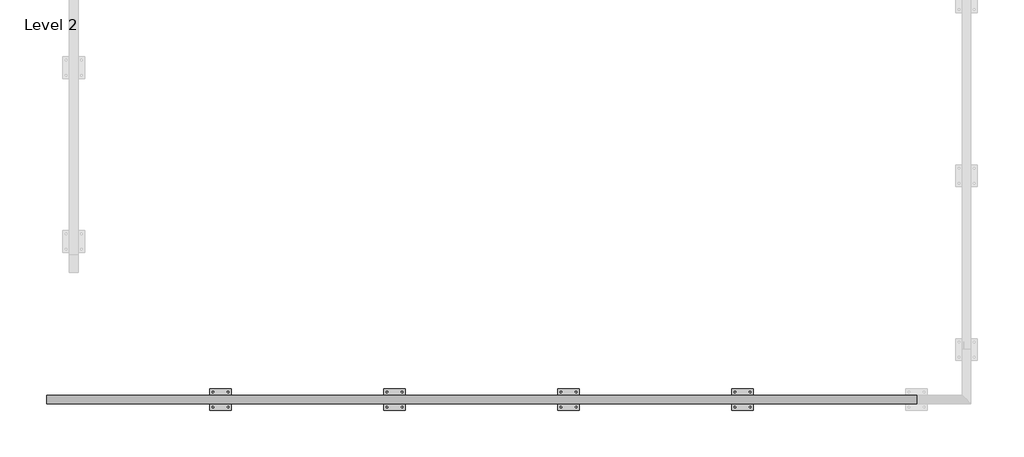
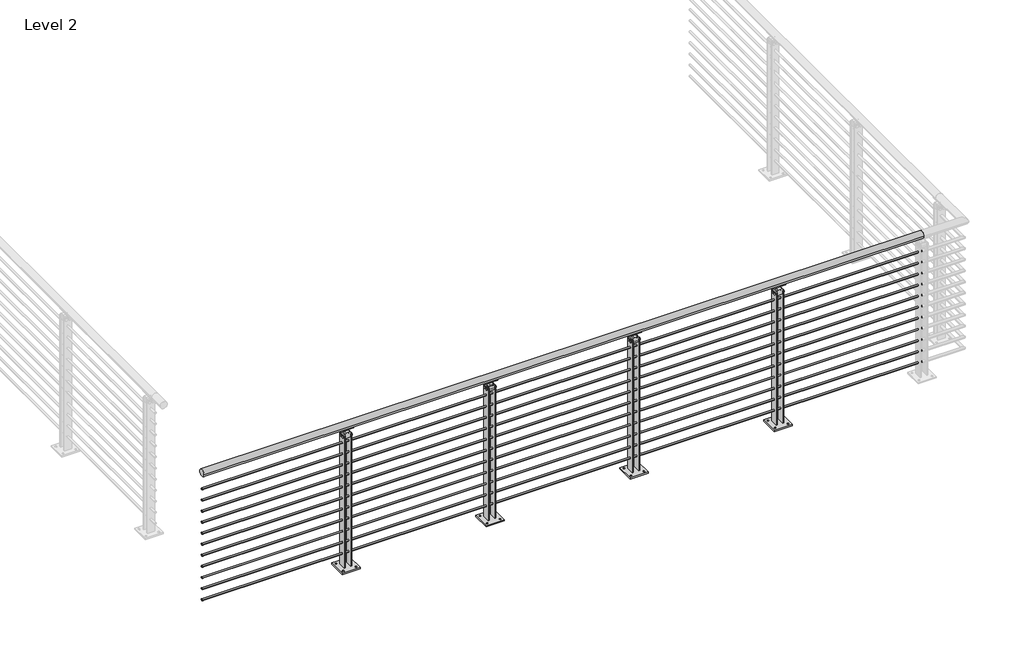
# One storey, part 10 of 31: 1 railing.
"""IFC4 building model written with IfcOpenShell, lengths in millimetres."""

import ifcopenshell
import ifcopenshell.guid

model = None  # the IFC model being written
_history = None  # IfcOwnerHistory: only IFC2X3 demands one
_inside = {}  # id of a spatial element -> (the spatial element, [elements in it])
_under = {}  # id of a project, library or spatial element -> (it, [spatial elements below it])
_declared = {}  # id of a project -> (the project, [libraries it declares])
_typed = {}  # id of a type object -> (the type object, [elements of that type])
_made_of = {}  # id of a material, layer set ... -> (it, [elements and type objects made of it])


def new_model(schema):
    """Start an empty IFC model of exactly this schema.

    Asked for "IFC4X3", IfcOpenShell would pick the latest addendum, in which some entities
    have other attributes; the version numbers below select the first issue.
    IFC2X3 requires an IfcOwnerHistory on every rooted entity: one is made here for all.
    """
    global model, _history
    if schema == "IFC4X3":
        model = ifcopenshell.file(schema_version=(4, 3, 0, 0))
    else:
        model = ifcopenshell.file(schema=schema)
    _inside.clear()
    _under.clear()
    _declared.clear()
    _typed.clear()
    _made_of.clear()
    _history = None
    if model.schema == "IFC2X3":
        org = make("IfcOrganization", Name="unknown")
        user = make(
            "IfcPersonAndOrganization",
            ThePerson=make("IfcPerson", FamilyName="unknown"),
            TheOrganization=org,
        )
        app = make(
            "IfcApplication",
            ApplicationDeveloper=org,
            Version="unknown",
            ApplicationFullName="unknown",
            ApplicationIdentifier="unknown",
        )
        _history = make(
            "IfcOwnerHistory",
            OwningUser=user,
            OwningApplication=app,
            ChangeAction="ADDED",
            CreationDate=0,
        )
    return model


def make(cls, **values):
    """One entity of the class cls with the attributes given. An attribute that is None is left unset."""
    return model.create_entity(
        cls, **{name: value for name, value in values.items() if value is not None}
    )


def rooted(cls, **values):
    """An entity with a GlobalId (a new one), such as an element, a storey or a relation."""
    return make(cls, GlobalId=ifcopenshell.guid.new(), OwnerHistory=_history, **values)


def si_unit(unit_type, name, prefix=None):
    """IfcSIUnit, for example si_unit("LENGTHUNIT", "METRE", prefix="MILLI")."""
    return make("IfcSIUnit", UnitType=unit_type, Prefix=prefix, Name=name)


def assignment(units):
    """IfcUnitAssignment: the units of a project."""
    return None if units is None else make("IfcUnitAssignment", Units=units)


def point(xyz):
    """IfcCartesianPoint."""
    return None if xyz is None else make("IfcCartesianPoint", Coordinates=xyz)


def direction(xyz):
    """IfcDirection."""
    return None if xyz is None else make("IfcDirection", DirectionRatios=xyz)


def frame(location, z_axis=None, x_axis=None):
    """IfcAxis2Placement3D, a coordinate frame: its origin and axes. An axis left out is left unset."""
    return make(
        "IfcAxis2Placement3D",
        Location=point(location),
        Axis=direction(z_axis),
        RefDirection=direction(x_axis),
    )


def frame_2d(location, x_axis=None):
    """IfcAxis2Placement2D, a coordinate frame in the plane: its origin and x axis."""
    return make(
        "IfcAxis2Placement2D", Location=point(location), RefDirection=direction(x_axis)
    )


def origin():
    """The frame at (0, 0, 0) with its axes left unset."""
    return frame((0.0, 0.0, 0.0))


def place(relative_to, where):
    """IfcLocalPlacement: puts the frame where relative to a parent placement (None: the world)."""
    return make(
        "IfcLocalPlacement", PlacementRelTo=relative_to, RelativePlacement=where
    )


def context(
    kind, dimensions, precision=None, world=None, true_north=None, identifier=None
):
    """IfcGeometricRepresentationContext, for example the 3D "Model" context."""
    return make(
        "IfcGeometricRepresentationContext",
        ContextIdentifier=identifier,
        ContextType=kind,
        CoordinateSpaceDimension=dimensions,
        Precision=precision,
        WorldCoordinateSystem=world,
        TrueNorth=true_north,
    )


def project(units=None, contexts=None):
    """IfcProject with its units and contexts."""
    return rooted(
        "IfcProject",
        Name="project",
        RepresentationContexts=contexts,
        UnitsInContext=assignment(units),
    )


def spatial(cls, under=None, at=None, **own):
    """A site, building, storey or space (cls), placed at a placement, below another one or the project."""
    s = rooted(cls, ObjectPlacement=at, **own)
    if under is not None:
        _under.setdefault(under.id(), (under, []))[1].append(s)
    return s


def polyline(points):
    """IfcPolyline through the points."""
    return make("IfcPolyline", Points=[point(p) for p in points])


def circle_curve(where, radius):
    """IfcCircle in the frame where."""
    return make("IfcCircle", Position=where, Radius=radius)


def trimmed(basis, trim1, trim2, sense, master):
    """IfcTrimmedCurve: the piece of a basis curve between two trims."""
    return make(
        "IfcTrimmedCurve",
        BasisCurve=basis,
        Trim1=trim1,
        Trim2=trim2,
        SenseAgreement=sense,
        MasterRepresentation=master,
    )


def segment(curve, same_sense, transition):
    """IfcCompositeCurveSegment."""
    return make(
        "IfcCompositeCurveSegment",
        Transition=transition,
        SameSense=same_sense,
        ParentCurve=curve,
    )


def composite_curve(segments, self_intersect=None):
    """IfcCompositeCurve: segments joined end to end."""
    return make("IfcCompositeCurve", Segments=segments, SelfIntersect=self_intersect)


def outline(outer, holes=None, kind="AREA"):
    """IfcArbitraryClosedProfileDef: a profile drawn as a closed curve; with holes, ...WithVoids."""
    if holes is None:
        return make("IfcArbitraryClosedProfileDef", ProfileType=kind, OuterCurve=outer)
    return make(
        "IfcArbitraryProfileDefWithVoids",
        ProfileType=kind,
        OuterCurve=outer,
        InnerCurves=holes,
    )


def extrude(swept, where, along, depth):
    """IfcExtrudedAreaSolid: the profile swept, set in the frame where, extruded along a direction by depth."""
    return make(
        "IfcExtrudedAreaSolid",
        SweptArea=swept,
        Position=where,
        ExtrudedDirection=direction(along),
        Depth=depth,
    )


def shape(context_of_items, identifier, shape_type, items):
    """IfcShapeRepresentation: the items that make up one representation, for example the "Body"."""
    return make(
        "IfcShapeRepresentation",
        ContextOfItems=context_of_items,
        RepresentationIdentifier=identifier,
        RepresentationType=shape_type,
        Items=items,
    )


def made_of(thing, what):
    """Note that an element or type object is made of a material, layer set ...; save() writes the relation."""
    if what is not None:
        _made_of.setdefault(what.id(), (what, []))[1].append(thing)
    return thing


def element(
    cls,
    number,
    at=None,
    inside=None,
    cuts=None,
    type_object=None,
    material=None,
    context=None,
    identifier="Body",
    shape_type=None,
    held_by="IfcProductDefinitionShape",
    body=None,
    shapes=None,
    **own,
):
    """One element of the class cls, such as IfcWall. Its Tag is "e" and its number.

    at: its placement. inside: the storey or other place that contains it. cuts: it is an
    opening in that element (IfcRelVoidsElement). A single representation is given by context,
    identifier, shape_type and body (its items); several are given by shapes. held_by: the class
    of the entity that holds the representations. save() writes the other relations.
    """
    e = rooted(cls, Tag="e%d" % number, ObjectPlacement=at, **own)
    if body is not None:
        shapes = [shape(context, identifier, shape_type, body)]
    if shapes is not None:
        e.Representation = make(held_by, Representations=shapes)
    if inside is not None:
        _inside.setdefault(inside.id(), (inside, []))[1].append(e)
    if cuts is not None:
        rooted(
            "IfcRelVoidsElement", RelatingBuildingElement=cuts, RelatedOpeningElement=e
        )
    if type_object is not None:
        _typed.setdefault(type_object.id(), (type_object, []))[1].append(e)
    return made_of(e, material)


def aggregate(whole, parts):
    """IfcRelAggregates: a whole, such as a stair, and the parts it consists of."""
    return rooted("IfcRelAggregates", RelatingObject=whole, RelatedObjects=parts)


def save(model, path):
    """Write the relations noted so far, then the file.

    IfcRelAggregates (storeys below a building ...), IfcRelContainedInSpatialStructure (elements
    in a storey), IfcRelDefinesByType, IfcRelAssociatesMaterial and IfcRelDeclares: one each for
    every whole, place, type object, material and project.
    """
    for whole, parts in _under.values():
        aggregate(whole, parts)
    for where, things in _inside.values():
        rooted(
            "IfcRelContainedInSpatialStructure",
            RelatedElements=things,
            RelatingStructure=where,
        )
    for kind, things in _typed.values():
        rooted("IfcRelDefinesByType", RelatedObjects=things, RelatingType=kind)
    for what, things in _made_of.values():
        rooted("IfcRelAssociatesMaterial", RelatedObjects=things, RelatingMaterial=what)
    for by, libraries in _declared.values():
        rooted("IfcRelDeclares", RelatingContext=by, RelatedDefinitions=libraries)
    model.write(path)


def plane_surface(at):
    """IfcPlane: the flat surface through the origin of the frame at, square to its z axis."""
    return make("IfcPlane", Position=at)


def cylinder_surface(at, radius):
    """IfcCylindricalSurface: all points at the distance radius from the z axis of the frame at."""
    return make("IfcCylindricalSurface", Position=at, Radius=radius)


def revolved_surface(curve, axis_point, axis_direction):
    """IfcSurfaceOfRevolution: the curve turned about the line through axis_point along axis_direction."""
    return make(
        "IfcSurfaceOfRevolution",
        SweptCurve=make("IfcArbitraryOpenProfileDef", ProfileType="CURVE", Curve=curve),
        AxisPosition=make("IfcAxis1Placement", Location=point(axis_point), Axis=direction(axis_direction)),
    )


def advanced_brep(points, edges, surfaces, faces):
    """IfcAdvancedBrep: a solid bounded by faces that lie on surfaces and meet in shared edges.

    An edge is (start, end): straight between two places in points (the first is 0);
    or (start, end, curve); or (start, end, curve, False) where it runs against its curve.
    A face is (place in surfaces, loops), or (place, loops, False) where it looks against
    its surface's normal. A loop lists edges by number (the first is 1), with a minus sign
    where the edge is run from its end to its start. The first loop is the outer one.
    """
    corners = [point(p) for p in points]
    vertices = [make("IfcVertexPoint", VertexGeometry=c) for c in corners]
    made = []
    for start, end, *more in edges:
        made.append(
            make(
                "IfcEdgeCurve",
                EdgeStart=vertices[start],
                EdgeEnd=vertices[end],
                EdgeGeometry=more[0] if more else make("IfcPolyline", Points=[corners[start], corners[end]]),
                SameSense=more[1] if len(more) > 1 else True,
            )
        )
    hull = []
    for where, loops, *sense in faces:
        bounds = []
        for j, loop in enumerate(loops):
            ring = [make("IfcOrientedEdge", EdgeElement=made[abs(k) - 1], Orientation=k > 0) for k in loop]
            bounds.append(
                make(
                    "IfcFaceOuterBound" if j == 0 else "IfcFaceBound",
                    Bound=make("IfcEdgeLoop", EdgeList=ring),
                    Orientation=True,
                )
            )
        hull.append(make("IfcAdvancedFace", Bounds=bounds, FaceSurface=surfaces[where], SameSense=sense[0] if sense else True))
    return make("IfcAdvancedBrep", Outer=make("IfcClosedShell", CfsFaces=hull))


model = new_model("IFC4")

# Units and contexts
model_context = context("Model", 3, world=origin())
ifc_project = project(units=[si_unit("LENGTHUNIT", "METRE", prefix="MILLI")], contexts=[model_context])

# Site, building, storey
site = spatial("IfcSite", under=ifc_project)
building = spatial("IfcBuilding", under=site)
storey = spatial("IfcBuildingStorey", under=building, Name="Level 2", Elevation=3048.0)

# Railing
placement = place(None, origin())
element("IfcRailing", 1, ObjectType="VIVA-BLADE-Multiline-Floor Mount-Straight", at=placement, inside=storey, context=model_context, shape_type="SolidModel", body=[
    extrude(outline(composite_curve([segment(trimmed(circle_curve(frame_2d((-69935.5426165, 4102.1)), 25.4), [point((-69960.9426165, 4102.1))], [point((-69910.1426165, 4102.1))], False, "CARTESIAN"), True, "CONTINUOUS"), segment(trimmed(circle_curve(frame_2d((-69935.5426165, 4102.1)), 25.4), [point((-69910.1426165, 4102.1))], [point((-69960.9426165, 4102.1))], False, "CARTESIAN"), True, "CONTINUOUS")], self_intersect=False)), frame((15443.0072927, 0.0, 0.0), z_axis=(1.0, 0.0, 0.0), x_axis=(0.0, 1.0, 0.0)), (0.0, 0.0, 1.0), 5080.0),
    extrude(outline(composite_curve([segment(trimmed(circle_curve(frame_2d((-69935.5426165, 3981.45)), 6.35), [point((-69929.1926165, 3981.45))], [point((-69941.8926165, 3981.45))], False, "CARTESIAN"), True, "CONTINUOUS"), segment(trimmed(circle_curve(frame_2d((-69935.5426165, 3981.45)), 6.35), [point((-69941.8926165, 3981.45))], [point((-69929.1926165, 3981.45))], False, "CARTESIAN"), True, "CONTINUOUS")], self_intersect=False)), frame((15443.0072927, 0.0, 0.0), z_axis=(1.0, 0.0, 0.0), x_axis=(0.0, 1.0, 0.0)), (0.0, 0.0, 1.0), 5080.0),
    extrude(outline(composite_curve([segment(trimmed(circle_curve(frame_2d((-69935.5426165, 3898.9)), 6.35), [point((-69929.1926165, 3898.9))], [point((-69941.8926165, 3898.9))], False, "CARTESIAN"), True, "CONTINUOUS"), segment(trimmed(circle_curve(frame_2d((-69935.5426165, 3898.9)), 6.35), [point((-69941.8926165, 3898.9))], [point((-69929.1926165, 3898.9))], False, "CARTESIAN"), True, "CONTINUOUS")], self_intersect=False)), frame((15443.0072927, 0.0, 0.0), z_axis=(1.0, 0.0, 0.0), x_axis=(0.0, 1.0, 0.0)), (0.0, 0.0, 1.0), 5080.0),
    extrude(outline(composite_curve([segment(trimmed(circle_curve(frame_2d((-69935.5426165, 3816.35)), 6.35), [point((-69929.1926165, 3816.35))], [point((-69941.8926165, 3816.35))], False, "CARTESIAN"), True, "CONTINUOUS"), segment(trimmed(circle_curve(frame_2d((-69935.5426165, 3816.35)), 6.35), [point((-69941.8926165, 3816.35))], [point((-69929.1926165, 3816.35))], False, "CARTESIAN"), True, "CONTINUOUS")], self_intersect=False)), frame((15443.0072927, 0.0, 0.0), z_axis=(1.0, 0.0, 0.0), x_axis=(0.0, 1.0, 0.0)), (0.0, 0.0, 1.0), 5080.0),
    extrude(outline(composite_curve([segment(trimmed(circle_curve(frame_2d((-69935.5426165, 3733.8)), 6.35), [point((-69929.1926165, 3733.8))], [point((-69941.8926165, 3733.8))], False, "CARTESIAN"), True, "CONTINUOUS"), segment(trimmed(circle_curve(frame_2d((-69935.5426165, 3733.8)), 6.35), [point((-69941.8926165, 3733.8))], [point((-69929.1926165, 3733.8))], False, "CARTESIAN"), True, "CONTINUOUS")], self_intersect=False)), frame((15443.0072927, 0.0, 0.0), z_axis=(1.0, 0.0, 0.0), x_axis=(0.0, 1.0, 0.0)), (0.0, 0.0, 1.0), 5080.0),
    extrude(outline(composite_curve([segment(trimmed(circle_curve(frame_2d((-69935.5426165, 3651.25)), 6.35), [point((-69929.1926165, 3651.25))], [point((-69941.8926165, 3651.25))], False, "CARTESIAN"), True, "CONTINUOUS"), segment(trimmed(circle_curve(frame_2d((-69935.5426165, 3651.25)), 6.35), [point((-69941.8926165, 3651.25))], [point((-69929.1926165, 3651.25))], False, "CARTESIAN"), True, "CONTINUOUS")], self_intersect=False)), frame((15443.0072927, 0.0, 0.0), z_axis=(1.0, 0.0, 0.0), x_axis=(0.0, 1.0, 0.0)), (0.0, 0.0, 1.0), 5080.0),
    extrude(outline(composite_curve([segment(trimmed(circle_curve(frame_2d((-69935.5426165, 3568.7)), 6.35), [point((-69929.1926165, 3568.7))], [point((-69941.8926165, 3568.7))], False, "CARTESIAN"), True, "CONTINUOUS"), segment(trimmed(circle_curve(frame_2d((-69935.5426165, 3568.7)), 6.35), [point((-69941.8926165, 3568.7))], [point((-69929.1926165, 3568.7))], False, "CARTESIAN"), True, "CONTINUOUS")], self_intersect=False)), frame((15443.0072927, 0.0, 0.0), z_axis=(1.0, 0.0, 0.0), x_axis=(0.0, 1.0, 0.0)), (0.0, 0.0, 1.0), 5080.0),
    extrude(outline(composite_curve([segment(trimmed(circle_curve(frame_2d((-69935.5426165, 3486.15)), 6.35), [point((-69929.1926165, 3486.15))], [point((-69941.8926165, 3486.15))], False, "CARTESIAN"), True, "CONTINUOUS"), segment(trimmed(circle_curve(frame_2d((-69935.5426165, 3486.15)), 6.35), [point((-69941.8926165, 3486.15))], [point((-69929.1926165, 3486.15))], False, "CARTESIAN"), True, "CONTINUOUS")], self_intersect=False)), frame((15443.0072927, 0.0, 0.0), z_axis=(1.0, 0.0, 0.0), x_axis=(0.0, 1.0, 0.0)), (0.0, 0.0, 1.0), 5080.0),
    extrude(outline(composite_curve([segment(trimmed(circle_curve(frame_2d((-69935.5426165, 3403.6)), 6.35), [point((-69929.1926165, 3403.6))], [point((-69941.8926165, 3403.6))], False, "CARTESIAN"), True, "CONTINUOUS"), segment(trimmed(circle_curve(frame_2d((-69935.5426165, 3403.6)), 6.35), [point((-69941.8926165, 3403.6))], [point((-69929.1926165, 3403.6))], False, "CARTESIAN"), True, "CONTINUOUS")], self_intersect=False)), frame((15443.0072927, 0.0, 0.0), z_axis=(1.0, 0.0, 0.0), x_axis=(0.0, 1.0, 0.0)), (0.0, 0.0, 1.0), 5080.0),
    extrude(outline(composite_curve([segment(trimmed(circle_curve(frame_2d((-69935.5426165, 3321.05)), 6.35), [point((-69929.1926165, 3321.05))], [point((-69941.8926165, 3321.05))], False, "CARTESIAN"), True, "CONTINUOUS"), segment(trimmed(circle_curve(frame_2d((-69935.5426165, 3321.05)), 6.35), [point((-69941.8926165, 3321.05))], [point((-69929.1926165, 3321.05))], False, "CARTESIAN"), True, "CONTINUOUS")], self_intersect=False)), frame((15443.0072927, 0.0, 0.0), z_axis=(1.0, 0.0, 0.0), x_axis=(0.0, 1.0, 0.0)), (0.0, 0.0, 1.0), 5080.0),
    extrude(outline(composite_curve([segment(trimmed(circle_curve(frame_2d((-69935.5426165, 3238.5)), 6.35), [point((-69929.1926165, 3238.5))], [point((-69941.8926165, 3238.5))], False, "CARTESIAN"), True, "CONTINUOUS"), segment(trimmed(circle_curve(frame_2d((-69935.5426165, 3238.5)), 6.35), [point((-69941.8926165, 3238.5))], [point((-69929.1926165, 3238.5))], False, "CARTESIAN"), True, "CONTINUOUS")], self_intersect=False)), frame((15443.0072927, 0.0, 0.0), z_axis=(1.0, 0.0, 0.0), x_axis=(0.0, 1.0, 0.0)), (0.0, 0.0, 1.0), 5080.0),
    extrude(outline(composite_curve([segment(trimmed(circle_curve(frame_2d((-69935.5426165, 3155.95)), 6.35), [point((-69929.1926165, 3155.95))], [point((-69941.8926165, 3155.95))], False, "CARTESIAN"), True, "CONTINUOUS"), segment(trimmed(circle_curve(frame_2d((-69935.5426165, 3155.95)), 6.35), [point((-69941.8926165, 3155.95))], [point((-69929.1926165, 3155.95))], False, "CARTESIAN"), True, "CONTINUOUS")], self_intersect=False)), frame((15443.0072927, 0.0, 0.0), z_axis=(1.0, 0.0, 0.0), x_axis=(0.0, 1.0, 0.0)), (0.0, 0.0, 1.0), 5080.0),
    advanced_brep(
    [(19552.2446927, -69922.7824929, 4080.0967655), (19552.2446927, -69947.6545574, 4079.9535285), (19552.2446927, -69950.4634877, 4075.1267745), (19552.2446927, -69918.9465955, 4075.707533), (19461.7698927, -69922.7824929, 4080.0967655), (19461.7698927, -69918.9465955, 4075.707533), (19461.7698927, -69950.5772811, 4075.1893964), (19461.7698927, -69947.7415296, 4080.0018447)],
    [
        (0, 1, circle_curve(frame((19552.2446927, -69935.3462958, 4102.2115898), z_axis=(-1.0, 0.0, 0.0), x_axis=(0.0, 1.0, 0.0)), 25.4345159)),
        (1, 2, circle_curve(frame((19552.2446927, -69948.9861827, 4077.4993599), z_axis=(1.0, 0.0, 0.0), x_axis=(0.0, 1.0, 0.0)), 2.7949225)),
        (2, 3, circle_curve(frame((19552.2446927, -69935.2128327, 4102.9742164), z_axis=(1.0, 0.0, 0.0), x_axis=(0.0, 1.0, 0.0)), 31.75)),
        (3, 0, circle_curve(frame((19552.2446927, -69921.2349352, 4077.5784521), z_axis=(1.0, 0.0, 0.0), x_axis=(0.0, 1.0, 0.0)), 2.9558141)),
        (4, 5, circle_curve(frame((19461.7698927, -69921.2349352, 4077.5784521), z_axis=(-1.0, 0.0, 0.0), x_axis=(0.0, 1.0, 0.0)), 2.9558141)),
        (5, 6, circle_curve(frame((19461.7698927, -69935.2128327, 4102.9742164), z_axis=(-1.0, 0.0, 0.0), x_axis=(0.0, 1.0, 0.0)), 31.75)),
        (6, 7, circle_curve(frame((19461.7698927, -69948.9861827, 4077.4993599), z_axis=(-1.0, 0.0, 0.0), x_axis=(0.0, 1.0, 0.0)), 2.7949225)),
        (7, 4, circle_curve(frame((19461.7698927, -69935.3462958, 4102.2115898), z_axis=(1.0, 0.0, 0.0), x_axis=(0.0, 1.0, 0.0)), 25.4345159)),
        (0, 4),
        (7, 1),
        (6, 2),
        (5, 3),
    ],
    [
        plane_surface(frame((19552.2446927, -69909.9117799, 4102.2115898), z_axis=(1.0, 0.0, 0.0), x_axis=(0.0, 0.0, -1.0))),
        plane_surface(frame((19461.7698927, -69909.9117799, 4102.2115898), z_axis=(-1.0, 0.0, 0.0), x_axis=(0.0, 0.0, 1.0))),
        revolved_surface(polyline([(19461.7698927, -69909.91177990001, 4102.2115898), (19552.2446927, -69909.91177990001, 4102.2115898)]), (19461.7698927, -69935.3462958, 4102.2115898), (-1.0, 0.0, 0.0)),
        cylinder_surface(frame((19461.7698927, -69948.9861827, 4077.4993599), z_axis=(1.0, 0.0, 0.0), x_axis=(0.0, 1.0, 0.0)), 2.7949225),
        cylinder_surface(frame((19461.7698927, -69935.2128327, 4102.9742164), z_axis=(1.0, 0.0, 0.0), x_axis=(0.0, 1.0, 0.0)), 31.75),
        cylinder_surface(frame((19461.7698927, -69921.2349352, 4077.5784521), z_axis=(1.0, 0.0, 0.0), x_axis=(0.0, 1.0, 0.0)), 2.9558141),
    ],
    [
        (0, [[1, 2, 3, 4]]),
        (1, [[5, 6, 7, 8]]),
        (2, [[-1, 9, -8, 10]]),
        (3, [[-2, -10, -7, 11]]),
        (4, [[-3, -11, -6, 12]]),
        (5, [[-4, -12, -5, -9]]),
    ],
),
    extrude(outline(composite_curve([segment(trimmed(circle_curve(frame_2d((4062.4125, 19534.0752076)), 14.3679149), [point((4062.4125, 19519.7072927))], [point((4076.7804149, 19534.0752076))], True, "CARTESIAN"), True, "CONTINUOUS"), segment(polyline([(4076.7804149, 19534.0752076), (4076.7804149, 19479.9393778)]), True, "CONTINUOUS"), segment(trimmed(circle_curve(frame_2d((4062.4125, 19479.9393778)), 14.3679149), [point((4076.7804149, 19479.9393778))], [point((4062.4125, 19494.3072927))], True, "CARTESIAN"), True, "CONTINUOUS"), segment(polyline([(4062.4125, 19494.3072927), (4062.4125, 19519.7072927)]), True, "CONTINUOUS")], self_intersect=False)), frame((0.0, -69938.0826165, 0.0), z_axis=(0.0, 1.0, 0.0), x_axis=(0.0, 0.0, 1.0)), (0.0, 0.0, 1.0), 5.08),
    extrude(outline(polyline([(19570.4953558, -69999.0414225), (19443.4953558, -69999.0414225), (19443.4953558, -69872.0438106), (19570.4953558, -69872.0438106), (19570.4953558, -69999.0414225)]), holes=[composite_curve([segment(trimmed(circle_curve(frame_2d((19462.5453558, -69979.9914225)), 4.7625), [point((19462.5453558, -69984.7539225))], [point((19462.5453558, -69975.2289225))], True, "CARTESIAN"), True, "CONTINUOUS"), segment(trimmed(circle_curve(frame_2d((19462.5453558, -69979.9914225)), 4.7625), [point((19462.5453558, -69975.2289225))], [point((19462.5453558, -69984.7539225))], True, "CARTESIAN"), True, "CONTINUOUS")], self_intersect=False), composite_curve([segment(trimmed(circle_curve(frame_2d((19462.5453558, -69891.0938106)), 4.7625), [point((19462.5453558, -69895.8563106))], [point((19462.5453558, -69886.3313106))], True, "CARTESIAN"), True, "CONTINUOUS"), segment(trimmed(circle_curve(frame_2d((19462.5453558, -69891.0938106)), 4.7625), [point((19462.5453558, -69886.3313106))], [point((19462.5453558, -69895.8563106))], True, "CARTESIAN"), True, "CONTINUOUS")], self_intersect=False), composite_curve([segment(trimmed(circle_curve(frame_2d((19551.4453558, -69891.0938106)), 4.7625), [point((19551.4453558, -69895.8563106))], [point((19551.4453558, -69886.3313106))], True, "CARTESIAN"), True, "CONTINUOUS"), segment(trimmed(circle_curve(frame_2d((19551.4453558, -69891.0938106)), 4.7625), [point((19551.4453558, -69886.3313106))], [point((19551.4453558, -69895.8563106))], True, "CARTESIAN"), True, "CONTINUOUS")], self_intersect=False), composite_curve([segment(trimmed(circle_curve(frame_2d((19551.4453558, -69979.9914225)), 4.7625), [point((19551.4453558, -69984.7539225))], [point((19551.4453558, -69975.2289225))], True, "CARTESIAN"), True, "CONTINUOUS"), segment(trimmed(circle_curve(frame_2d((19551.4453558, -69979.9914225)), 4.7625), [point((19551.4453558, -69975.2289225))], [point((19551.4453558, -69984.7539225))], True, "CARTESIAN"), True, "CONTINUOUS")], self_intersect=False)]), frame((0.0, 0.0, 3048.0), z_axis=(0.0, 0.0, 1.0), x_axis=(1.0, 0.0, 0.0)), (0.0, 0.0, 1.0), 9.525),
    extrude(outline(polyline([(19479.932457, -69910.1428199), (19487.9572927, -69910.1428199), (19487.9572927, -69960.9451445), (19479.932457, -69960.9451445), (19479.932457, -69910.1428199)])), frame((0.0, 0.0, 3048.0), z_axis=(0.0, 0.0, 1.0), x_axis=(1.0, 0.0, 0.0)), (0.0, 0.0, 1.0), 996.95),
    extrude(outline(composite_curve([segment(trimmed(circle_curve(frame_2d((-69948.2450935, 4034.0416929)), 8.89), [point((-69957.1350935, 4034.0416929))], [point((-69939.3550935, 4034.0416929))], False, "CARTESIAN"), True, "CONTINUOUS"), segment(trimmed(circle_curve(frame_2d((-69948.2450935, 4034.0416929)), 8.89), [point((-69939.3550935, 4034.0416929))], [point((-69957.1350935, 4034.0416929))], False, "CARTESIAN"), True, "CONTINUOUS")], self_intersect=False)), frame((19475.2572927, 0.0, 0.0), z_axis=(1.0, 0.0, 0.0), x_axis=(0.0, 1.0, 0.0)), (0.0, 0.0, 1.0), 63.4880631),
    extrude(outline(composite_curve([segment(trimmed(circle_curve(frame_2d((-69922.8451955, 4034.0416929)), 8.89), [point((-69931.7351955, 4034.0416929))], [point((-69913.9551955, 4034.0416929))], False, "CARTESIAN"), True, "CONTINUOUS"), segment(trimmed(circle_curve(frame_2d((-69922.8451955, 4034.0416929)), 8.89), [point((-69913.9551955, 4034.0416929))], [point((-69931.7351955, 4034.0416929))], False, "CARTESIAN"), True, "CONTINUOUS")], self_intersect=False)), frame((19475.2572927, 0.0, 0.0), z_axis=(1.0, 0.0, 0.0), x_axis=(0.0, 1.0, 0.0)), (0.0, 0.0, 1.0), 63.4880631),
    extrude(outline(polyline([(4022.7123, 19487.9572927), (4022.7123, 19526.0572927), (4056.0625, 19526.0572927), (4062.4125, 19519.7072927), (4062.4125, 19494.3072927), (4056.0625, 19487.9572927), (4022.7123, 19487.9572927)])), frame((0.0, -69960.9451445, 0.0), z_axis=(0.0, 1.0, 0.0), x_axis=(0.0, 0.0, 1.0)), (0.0, 0.0, 1.0), 50.8025279),
    extrude(outline(polyline([(19526.0572547, -69910.1428199), (19534.0582547, -69910.1428199), (19534.0582547, -69960.9451445), (19526.0572547, -69960.9451445), (19526.0572547, -69910.1428199)])), frame((0.0, 0.0, 3048.0), z_axis=(0.0, 0.0, 1.0), x_axis=(1.0, 0.0, 0.0)), (0.0, 0.0, 1.0), 996.95),
    advanced_brep(
    [(18536.2446927, -69922.7824929, 4080.0967655), (18536.2446927, -69947.6545574, 4079.9535285), (18536.2446927, -69950.4634877, 4075.1267745), (18536.2446927, -69918.9465955, 4075.707533), (18445.7698927, -69922.7824929, 4080.0967655), (18445.7698927, -69918.9465955, 4075.707533), (18445.7698927, -69950.5772811, 4075.1893964), (18445.7698927, -69947.7415296, 4080.0018447)],
    [
        (0, 1, circle_curve(frame((18536.2446927, -69935.3462958, 4102.2115898), z_axis=(-1.0, 0.0, 0.0), x_axis=(0.0, 1.0, 0.0)), 25.4345159)),
        (1, 2, circle_curve(frame((18536.2446927, -69948.9861827, 4077.4993599), z_axis=(1.0, 0.0, 0.0), x_axis=(0.0, 1.0, 0.0)), 2.7949225)),
        (2, 3, circle_curve(frame((18536.2446927, -69935.2128327, 4102.9742164), z_axis=(1.0, 0.0, 0.0), x_axis=(0.0, 1.0, 0.0)), 31.75)),
        (3, 0, circle_curve(frame((18536.2446927, -69921.2349352, 4077.5784521), z_axis=(1.0, 0.0, 0.0), x_axis=(0.0, 1.0, 0.0)), 2.9558141)),
        (4, 5, circle_curve(frame((18445.7698927, -69921.2349352, 4077.5784521), z_axis=(-1.0, 0.0, 0.0), x_axis=(0.0, 1.0, 0.0)), 2.9558141)),
        (5, 6, circle_curve(frame((18445.7698927, -69935.2128327, 4102.9742164), z_axis=(-1.0, 0.0, 0.0), x_axis=(0.0, 1.0, 0.0)), 31.75)),
        (6, 7, circle_curve(frame((18445.7698927, -69948.9861827, 4077.4993599), z_axis=(-1.0, 0.0, 0.0), x_axis=(0.0, 1.0, 0.0)), 2.7949225)),
        (7, 4, circle_curve(frame((18445.7698927, -69935.3462958, 4102.2115898), z_axis=(1.0, 0.0, 0.0), x_axis=(0.0, 1.0, 0.0)), 25.4345159)),
        (0, 4),
        (7, 1),
        (6, 2),
        (5, 3),
    ],
    [
        plane_surface(frame((18536.2446927, -69909.9117799, 4102.2115898), z_axis=(1.0, 0.0, 0.0), x_axis=(0.0, 0.0, -1.0))),
        plane_surface(frame((18445.7698927, -69909.9117799, 4102.2115898), z_axis=(-1.0, 0.0, 0.0), x_axis=(0.0, 0.0, 1.0))),
        revolved_surface(polyline([(18445.7698927, -69909.91177990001, 4102.2115898), (18536.2446927, -69909.91177990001, 4102.2115898)]), (18445.7698927, -69935.3462958, 4102.2115898), (-1.0, 0.0, 0.0)),
        cylinder_surface(frame((18445.7698927, -69948.9861827, 4077.4993599), z_axis=(1.0, 0.0, 0.0), x_axis=(0.0, 1.0, 0.0)), 2.7949225),
        cylinder_surface(frame((18445.7698927, -69935.2128327, 4102.9742164), z_axis=(1.0, 0.0, 0.0), x_axis=(0.0, 1.0, 0.0)), 31.75),
        cylinder_surface(frame((18445.7698927, -69921.2349352, 4077.5784521), z_axis=(1.0, 0.0, 0.0), x_axis=(0.0, 1.0, 0.0)), 2.9558141),
    ],
    [
        (0, [[1, 2, 3, 4]]),
        (1, [[5, 6, 7, 8]]),
        (2, [[-1, 9, -8, 10]]),
        (3, [[-2, -10, -7, 11]]),
        (4, [[-3, -11, -6, 12]]),
        (5, [[-4, -12, -5, -9]]),
    ],
),
    extrude(outline(composite_curve([segment(trimmed(circle_curve(frame_2d((4062.4125, 18518.0752076)), 14.3679149), [point((4062.4125, 18503.7072927))], [point((4076.7804149, 18518.0752076))], True, "CARTESIAN"), True, "CONTINUOUS"), segment(polyline([(4076.7804149, 18518.0752076), (4076.7804149, 18463.9393778)]), True, "CONTINUOUS"), segment(trimmed(circle_curve(frame_2d((4062.4125, 18463.9393778)), 14.3679149), [point((4076.7804149, 18463.9393778))], [point((4062.4125, 18478.3072927))], True, "CARTESIAN"), True, "CONTINUOUS"), segment(polyline([(4062.4125, 18478.3072927), (4062.4125, 18503.7072927)]), True, "CONTINUOUS")], self_intersect=False)), frame((0.0, -69938.0826165, 0.0), z_axis=(0.0, 1.0, 0.0), x_axis=(0.0, 0.0, 1.0)), (0.0, 0.0, 1.0), 5.08),
    extrude(outline(polyline([(18554.4953558, -69999.0414225), (18427.4953558, -69999.0414225), (18427.4953558, -69872.0438106), (18554.4953558, -69872.0438106), (18554.4953558, -69999.0414225)]), holes=[composite_curve([segment(trimmed(circle_curve(frame_2d((18446.5453558, -69979.9914225)), 4.7625), [point((18446.5453558, -69984.7539225))], [point((18446.5453558, -69975.2289225))], True, "CARTESIAN"), True, "CONTINUOUS"), segment(trimmed(circle_curve(frame_2d((18446.5453558, -69979.9914225)), 4.7625), [point((18446.5453558, -69975.2289225))], [point((18446.5453558, -69984.7539225))], True, "CARTESIAN"), True, "CONTINUOUS")], self_intersect=False), composite_curve([segment(trimmed(circle_curve(frame_2d((18446.5453558, -69891.0938106)), 4.7625), [point((18446.5453558, -69895.8563106))], [point((18446.5453558, -69886.3313106))], True, "CARTESIAN"), True, "CONTINUOUS"), segment(trimmed(circle_curve(frame_2d((18446.5453558, -69891.0938106)), 4.7625), [point((18446.5453558, -69886.3313106))], [point((18446.5453558, -69895.8563106))], True, "CARTESIAN"), True, "CONTINUOUS")], self_intersect=False), composite_curve([segment(trimmed(circle_curve(frame_2d((18535.4453558, -69891.0938106)), 4.7625), [point((18535.4453558, -69895.8563106))], [point((18535.4453558, -69886.3313106))], True, "CARTESIAN"), True, "CONTINUOUS"), segment(trimmed(circle_curve(frame_2d((18535.4453558, -69891.0938106)), 4.7625), [point((18535.4453558, -69886.3313106))], [point((18535.4453558, -69895.8563106))], True, "CARTESIAN"), True, "CONTINUOUS")], self_intersect=False), composite_curve([segment(trimmed(circle_curve(frame_2d((18535.4453558, -69979.9914225)), 4.7625), [point((18535.4453558, -69984.7539225))], [point((18535.4453558, -69975.2289225))], True, "CARTESIAN"), True, "CONTINUOUS"), segment(trimmed(circle_curve(frame_2d((18535.4453558, -69979.9914225)), 4.7625), [point((18535.4453558, -69975.2289225))], [point((18535.4453558, -69984.7539225))], True, "CARTESIAN"), True, "CONTINUOUS")], self_intersect=False)]), frame((0.0, 0.0, 3048.0), z_axis=(0.0, 0.0, 1.0), x_axis=(1.0, 0.0, 0.0)), (0.0, 0.0, 1.0), 9.525),
    extrude(outline(polyline([(18463.932457, -69910.1428199), (18471.9572927, -69910.1428199), (18471.9572927, -69960.9451445), (18463.932457, -69960.9451445), (18463.932457, -69910.1428199)])), frame((0.0, 0.0, 3048.0), z_axis=(0.0, 0.0, 1.0), x_axis=(1.0, 0.0, 0.0)), (0.0, 0.0, 1.0), 996.95),
    extrude(outline(composite_curve([segment(trimmed(circle_curve(frame_2d((-69948.2450935, 4034.0416929)), 8.89), [point((-69957.1350935, 4034.0416929))], [point((-69939.3550935, 4034.0416929))], False, "CARTESIAN"), True, "CONTINUOUS"), segment(trimmed(circle_curve(frame_2d((-69948.2450935, 4034.0416929)), 8.89), [point((-69939.3550935, 4034.0416929))], [point((-69957.1350935, 4034.0416929))], False, "CARTESIAN"), True, "CONTINUOUS")], self_intersect=False)), frame((18459.2572927, 0.0, 0.0), z_axis=(1.0, 0.0, 0.0), x_axis=(0.0, 1.0, 0.0)), (0.0, 0.0, 1.0), 63.4880631),
    extrude(outline(composite_curve([segment(trimmed(circle_curve(frame_2d((-69922.8451955, 4034.0416929)), 8.89), [point((-69931.7351955, 4034.0416929))], [point((-69913.9551955, 4034.0416929))], False, "CARTESIAN"), True, "CONTINUOUS"), segment(trimmed(circle_curve(frame_2d((-69922.8451955, 4034.0416929)), 8.89), [point((-69913.9551955, 4034.0416929))], [point((-69931.7351955, 4034.0416929))], False, "CARTESIAN"), True, "CONTINUOUS")], self_intersect=False)), frame((18459.2572927, 0.0, 0.0), z_axis=(1.0, 0.0, 0.0), x_axis=(0.0, 1.0, 0.0)), (0.0, 0.0, 1.0), 63.4880631),
    extrude(outline(polyline([(4022.7123, 18471.9572927), (4022.7123, 18510.0572927), (4056.0625, 18510.0572927), (4062.4125, 18503.7072927), (4062.4125, 18478.3072927), (4056.0625, 18471.9572927), (4022.7123, 18471.9572927)])), frame((0.0, -69960.9451445, 0.0), z_axis=(0.0, 1.0, 0.0), x_axis=(0.0, 0.0, 1.0)), (0.0, 0.0, 1.0), 50.8025279),
    extrude(outline(polyline([(18510.0572547, -69910.1428199), (18518.0582547, -69910.1428199), (18518.0582547, -69960.9451445), (18510.0572547, -69960.9451445), (18510.0572547, -69910.1428199)])), frame((0.0, 0.0, 3048.0), z_axis=(0.0, 0.0, 1.0), x_axis=(1.0, 0.0, 0.0)), (0.0, 0.0, 1.0), 996.95),
    advanced_brep(
    [(17520.2446927, -69922.7824929, 4080.0967655), (17520.2446927, -69947.6545574, 4079.9535285), (17520.2446927, -69950.4634877, 4075.1267745), (17520.2446927, -69918.9465955, 4075.707533), (17429.7698927, -69922.7824929, 4080.0967655), (17429.7698927, -69918.9465955, 4075.707533), (17429.7698927, -69950.5772811, 4075.1893964), (17429.7698927, -69947.7415296, 4080.0018447)],
    [
        (0, 1, circle_curve(frame((17520.2446927, -69935.3462958, 4102.2115898), z_axis=(-1.0, 0.0, 0.0), x_axis=(0.0, 1.0, 0.0)), 25.4345159)),
        (1, 2, circle_curve(frame((17520.2446927, -69948.9861827, 4077.4993599), z_axis=(1.0, 0.0, 0.0), x_axis=(0.0, 1.0, 0.0)), 2.7949225)),
        (2, 3, circle_curve(frame((17520.2446927, -69935.2128327, 4102.9742164), z_axis=(1.0, 0.0, 0.0), x_axis=(0.0, 1.0, 0.0)), 31.75)),
        (3, 0, circle_curve(frame((17520.2446927, -69921.2349352, 4077.5784521), z_axis=(1.0, 0.0, 0.0), x_axis=(0.0, 1.0, 0.0)), 2.9558141)),
        (4, 5, circle_curve(frame((17429.7698927, -69921.2349352, 4077.5784521), z_axis=(-1.0, 0.0, 0.0), x_axis=(0.0, 1.0, 0.0)), 2.9558141)),
        (5, 6, circle_curve(frame((17429.7698927, -69935.2128327, 4102.9742164), z_axis=(-1.0, 0.0, 0.0), x_axis=(0.0, 1.0, 0.0)), 31.75)),
        (6, 7, circle_curve(frame((17429.7698927, -69948.9861827, 4077.4993599), z_axis=(-1.0, 0.0, 0.0), x_axis=(0.0, 1.0, 0.0)), 2.7949225)),
        (7, 4, circle_curve(frame((17429.7698927, -69935.3462958, 4102.2115898), z_axis=(1.0, 0.0, 0.0), x_axis=(0.0, 1.0, 0.0)), 25.4345159)),
        (0, 4),
        (7, 1),
        (6, 2),
        (5, 3),
    ],
    [
        plane_surface(frame((17520.2446927, -69909.9117799, 4102.2115898), z_axis=(1.0, 0.0, 0.0), x_axis=(0.0, 0.0, -1.0))),
        plane_surface(frame((17429.7698927, -69909.9117799, 4102.2115898), z_axis=(-1.0, 0.0, 0.0), x_axis=(0.0, 0.0, 1.0))),
        revolved_surface(polyline([(17429.7698927, -69909.91177990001, 4102.2115898), (17520.2446927, -69909.91177990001, 4102.2115898)]), (17429.7698927, -69935.3462958, 4102.2115898), (-1.0, 0.0, 0.0)),
        cylinder_surface(frame((17429.7698927, -69948.9861827, 4077.4993599), z_axis=(1.0, 0.0, 0.0), x_axis=(0.0, 1.0, 0.0)), 2.7949225),
        cylinder_surface(frame((17429.7698927, -69935.2128327, 4102.9742164), z_axis=(1.0, 0.0, 0.0), x_axis=(0.0, 1.0, 0.0)), 31.75),
        cylinder_surface(frame((17429.7698927, -69921.2349352, 4077.5784521), z_axis=(1.0, 0.0, 0.0), x_axis=(0.0, 1.0, 0.0)), 2.9558141),
    ],
    [
        (0, [[1, 2, 3, 4]]),
        (1, [[5, 6, 7, 8]]),
        (2, [[-1, 9, -8, 10]]),
        (3, [[-2, -10, -7, 11]]),
        (4, [[-3, -11, -6, 12]]),
        (5, [[-4, -12, -5, -9]]),
    ],
),
    extrude(outline(composite_curve([segment(trimmed(circle_curve(frame_2d((4062.4125, 17502.0752076)), 14.3679149), [point((4062.4125, 17487.7072927))], [point((4076.7804149, 17502.0752076))], True, "CARTESIAN"), True, "CONTINUOUS"), segment(polyline([(4076.7804149, 17502.0752076), (4076.7804149, 17447.9393778)]), True, "CONTINUOUS"), segment(trimmed(circle_curve(frame_2d((4062.4125, 17447.9393778)), 14.3679149), [point((4076.7804149, 17447.9393778))], [point((4062.4125, 17462.3072927))], True, "CARTESIAN"), True, "CONTINUOUS"), segment(polyline([(4062.4125, 17462.3072927), (4062.4125, 17487.7072927)]), True, "CONTINUOUS")], self_intersect=False)), frame((0.0, -69938.0826165, 0.0), z_axis=(0.0, 1.0, 0.0), x_axis=(0.0, 0.0, 1.0)), (0.0, 0.0, 1.0), 5.08),
    extrude(outline(polyline([(17538.4953558, -69999.0414225), (17411.4953558, -69999.0414225), (17411.4953558, -69872.0438106), (17538.4953558, -69872.0438106), (17538.4953558, -69999.0414225)]), holes=[composite_curve([segment(trimmed(circle_curve(frame_2d((17430.5453558, -69979.9914225)), 4.7625), [point((17430.5453558, -69984.7539225))], [point((17430.5453558, -69975.2289225))], True, "CARTESIAN"), True, "CONTINUOUS"), segment(trimmed(circle_curve(frame_2d((17430.5453558, -69979.9914225)), 4.7625), [point((17430.5453558, -69975.2289225))], [point((17430.5453558, -69984.7539225))], True, "CARTESIAN"), True, "CONTINUOUS")], self_intersect=False), composite_curve([segment(trimmed(circle_curve(frame_2d((17430.5453558, -69891.0938106)), 4.7625), [point((17430.5453558, -69895.8563106))], [point((17430.5453558, -69886.3313106))], True, "CARTESIAN"), True, "CONTINUOUS"), segment(trimmed(circle_curve(frame_2d((17430.5453558, -69891.0938106)), 4.7625), [point((17430.5453558, -69886.3313106))], [point((17430.5453558, -69895.8563106))], True, "CARTESIAN"), True, "CONTINUOUS")], self_intersect=False), composite_curve([segment(trimmed(circle_curve(frame_2d((17519.4453558, -69891.0938106)), 4.7625), [point((17519.4453558, -69895.8563106))], [point((17519.4453558, -69886.3313106))], True, "CARTESIAN"), True, "CONTINUOUS"), segment(trimmed(circle_curve(frame_2d((17519.4453558, -69891.0938106)), 4.7625), [point((17519.4453558, -69886.3313106))], [point((17519.4453558, -69895.8563106))], True, "CARTESIAN"), True, "CONTINUOUS")], self_intersect=False), composite_curve([segment(trimmed(circle_curve(frame_2d((17519.4453558, -69979.9914225)), 4.7625), [point((17519.4453558, -69984.7539225))], [point((17519.4453558, -69975.2289225))], True, "CARTESIAN"), True, "CONTINUOUS"), segment(trimmed(circle_curve(frame_2d((17519.4453558, -69979.9914225)), 4.7625), [point((17519.4453558, -69975.2289225))], [point((17519.4453558, -69984.7539225))], True, "CARTESIAN"), True, "CONTINUOUS")], self_intersect=False)]), frame((0.0, 0.0, 3048.0), z_axis=(0.0, 0.0, 1.0), x_axis=(1.0, 0.0, 0.0)), (0.0, 0.0, 1.0), 9.525),
    extrude(outline(polyline([(17447.932457, -69910.1428199), (17455.9572927, -69910.1428199), (17455.9572927, -69960.9451445), (17447.932457, -69960.9451445), (17447.932457, -69910.1428199)])), frame((0.0, 0.0, 3048.0), z_axis=(0.0, 0.0, 1.0), x_axis=(1.0, 0.0, 0.0)), (0.0, 0.0, 1.0), 996.95),
    extrude(outline(composite_curve([segment(trimmed(circle_curve(frame_2d((-69948.2450935, 4034.0416929)), 8.89), [point((-69957.1350935, 4034.0416929))], [point((-69939.3550935, 4034.0416929))], False, "CARTESIAN"), True, "CONTINUOUS"), segment(trimmed(circle_curve(frame_2d((-69948.2450935, 4034.0416929)), 8.89), [point((-69939.3550935, 4034.0416929))], [point((-69957.1350935, 4034.0416929))], False, "CARTESIAN"), True, "CONTINUOUS")], self_intersect=False)), frame((17443.2572927, 0.0, 0.0), z_axis=(1.0, 0.0, 0.0), x_axis=(0.0, 1.0, 0.0)), (0.0, 0.0, 1.0), 63.4880631),
    extrude(outline(composite_curve([segment(trimmed(circle_curve(frame_2d((-69922.8451955, 4034.0416929)), 8.89), [point((-69931.7351955, 4034.0416929))], [point((-69913.9551955, 4034.0416929))], False, "CARTESIAN"), True, "CONTINUOUS"), segment(trimmed(circle_curve(frame_2d((-69922.8451955, 4034.0416929)), 8.89), [point((-69913.9551955, 4034.0416929))], [point((-69931.7351955, 4034.0416929))], False, "CARTESIAN"), True, "CONTINUOUS")], self_intersect=False)), frame((17443.2572927, 0.0, 0.0), z_axis=(1.0, 0.0, 0.0), x_axis=(0.0, 1.0, 0.0)), (0.0, 0.0, 1.0), 63.4880631),
    extrude(outline(polyline([(4022.7123, 17455.9572927), (4022.7123, 17494.0572927), (4056.0625, 17494.0572927), (4062.4125, 17487.7072927), (4062.4125, 17462.3072927), (4056.0625, 17455.9572927), (4022.7123, 17455.9572927)])), frame((0.0, -69960.9451445, 0.0), z_axis=(0.0, 1.0, 0.0), x_axis=(0.0, 0.0, 1.0)), (0.0, 0.0, 1.0), 50.8025279),
    extrude(outline(polyline([(17494.0572547, -69910.1428199), (17502.0582547, -69910.1428199), (17502.0582547, -69960.9451445), (17494.0572547, -69960.9451445), (17494.0572547, -69910.1428199)])), frame((0.0, 0.0, 3048.0), z_axis=(0.0, 0.0, 1.0), x_axis=(1.0, 0.0, 0.0)), (0.0, 0.0, 1.0), 996.95),
    advanced_brep(
    [(16504.2446927, -69922.7824929, 4080.0967655), (16504.2446927, -69947.6545574, 4079.9535285), (16504.2446927, -69950.4634877, 4075.1267745), (16504.2446927, -69918.9465955, 4075.707533), (16413.7698927, -69922.7824929, 4080.0967655), (16413.7698927, -69918.9465955, 4075.707533), (16413.7698927, -69950.5772811, 4075.1893964), (16413.7698927, -69947.7415296, 4080.0018447)],
    [
        (0, 1, circle_curve(frame((16504.2446927, -69935.3462958, 4102.2115898), z_axis=(-1.0, 0.0, 0.0), x_axis=(0.0, 1.0, 0.0)), 25.4345159)),
        (1, 2, circle_curve(frame((16504.2446927, -69948.9861827, 4077.4993599), z_axis=(1.0, 0.0, 0.0), x_axis=(0.0, 1.0, 0.0)), 2.7949225)),
        (2, 3, circle_curve(frame((16504.2446927, -69935.2128327, 4102.9742164), z_axis=(1.0, 0.0, 0.0), x_axis=(0.0, 1.0, 0.0)), 31.75)),
        (3, 0, circle_curve(frame((16504.2446927, -69921.2349352, 4077.5784521), z_axis=(1.0, 0.0, 0.0), x_axis=(0.0, 1.0, 0.0)), 2.9558141)),
        (4, 5, circle_curve(frame((16413.7698927, -69921.2349352, 4077.5784521), z_axis=(-1.0, 0.0, 0.0), x_axis=(0.0, 1.0, 0.0)), 2.9558141)),
        (5, 6, circle_curve(frame((16413.7698927, -69935.2128327, 4102.9742164), z_axis=(-1.0, 0.0, 0.0), x_axis=(0.0, 1.0, 0.0)), 31.75)),
        (6, 7, circle_curve(frame((16413.7698927, -69948.9861827, 4077.4993599), z_axis=(-1.0, 0.0, 0.0), x_axis=(0.0, 1.0, 0.0)), 2.7949225)),
        (7, 4, circle_curve(frame((16413.7698927, -69935.3462958, 4102.2115898), z_axis=(1.0, 0.0, 0.0), x_axis=(0.0, 1.0, 0.0)), 25.4345159)),
        (0, 4),
        (7, 1),
        (6, 2),
        (5, 3),
    ],
    [
        plane_surface(frame((16504.2446927, -69909.9117799, 4102.2115898), z_axis=(1.0, 0.0, 0.0), x_axis=(0.0, 0.0, -1.0))),
        plane_surface(frame((16413.7698927, -69909.9117799, 4102.2115898), z_axis=(-1.0, 0.0, 0.0), x_axis=(0.0, 0.0, 1.0))),
        revolved_surface(polyline([(16413.7698927, -69909.91177990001, 4102.2115898), (16504.2446927, -69909.91177990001, 4102.2115898)]), (16413.7698927, -69935.3462958, 4102.2115898), (-1.0, 0.0, 0.0)),
        cylinder_surface(frame((16413.7698927, -69948.9861827, 4077.4993599), z_axis=(1.0, 0.0, 0.0), x_axis=(0.0, 1.0, 0.0)), 2.7949225),
        cylinder_surface(frame((16413.7698927, -69935.2128327, 4102.9742164), z_axis=(1.0, 0.0, 0.0), x_axis=(0.0, 1.0, 0.0)), 31.75),
        cylinder_surface(frame((16413.7698927, -69921.2349352, 4077.5784521), z_axis=(1.0, 0.0, 0.0), x_axis=(0.0, 1.0, 0.0)), 2.9558141),
    ],
    [
        (0, [[1, 2, 3, 4]]),
        (1, [[5, 6, 7, 8]]),
        (2, [[-1, 9, -8, 10]]),
        (3, [[-2, -10, -7, 11]]),
        (4, [[-3, -11, -6, 12]]),
        (5, [[-4, -12, -5, -9]]),
    ],
),
    extrude(outline(composite_curve([segment(trimmed(circle_curve(frame_2d((4062.4125, 16486.0752076)), 14.3679149), [point((4062.4125, 16471.7072927))], [point((4076.7804149, 16486.0752076))], True, "CARTESIAN"), True, "CONTINUOUS"), segment(polyline([(4076.7804149, 16486.0752076), (4076.7804149, 16431.9393778)]), True, "CONTINUOUS"), segment(trimmed(circle_curve(frame_2d((4062.4125, 16431.9393778)), 14.3679149), [point((4076.7804149, 16431.9393778))], [point((4062.4125, 16446.3072927))], True, "CARTESIAN"), True, "CONTINUOUS"), segment(polyline([(4062.4125, 16446.3072927), (4062.4125, 16471.7072927)]), True, "CONTINUOUS")], self_intersect=False)), frame((0.0, -69938.0826165, 0.0), z_axis=(0.0, 1.0, 0.0), x_axis=(0.0, 0.0, 1.0)), (0.0, 0.0, 1.0), 5.08),
    extrude(outline(polyline([(16522.4953558, -69999.0414225), (16395.4953558, -69999.0414225), (16395.4953558, -69872.0438106), (16522.4953558, -69872.0438106), (16522.4953558, -69999.0414225)]), holes=[composite_curve([segment(trimmed(circle_curve(frame_2d((16414.5453558, -69979.9914225)), 4.7625), [point((16414.5453558, -69984.7539225))], [point((16414.5453558, -69975.2289225))], True, "CARTESIAN"), True, "CONTINUOUS"), segment(trimmed(circle_curve(frame_2d((16414.5453558, -69979.9914225)), 4.7625), [point((16414.5453558, -69975.2289225))], [point((16414.5453558, -69984.7539225))], True, "CARTESIAN"), True, "CONTINUOUS")], self_intersect=False), composite_curve([segment(trimmed(circle_curve(frame_2d((16414.5453558, -69891.0938106)), 4.7625), [point((16414.5453558, -69895.8563106))], [point((16414.5453558, -69886.3313106))], True, "CARTESIAN"), True, "CONTINUOUS"), segment(trimmed(circle_curve(frame_2d((16414.5453558, -69891.0938106)), 4.7625), [point((16414.5453558, -69886.3313106))], [point((16414.5453558, -69895.8563106))], True, "CARTESIAN"), True, "CONTINUOUS")], self_intersect=False), composite_curve([segment(trimmed(circle_curve(frame_2d((16503.4453558, -69891.0938106)), 4.7625), [point((16503.4453558, -69895.8563106))], [point((16503.4453558, -69886.3313106))], True, "CARTESIAN"), True, "CONTINUOUS"), segment(trimmed(circle_curve(frame_2d((16503.4453558, -69891.0938106)), 4.7625), [point((16503.4453558, -69886.3313106))], [point((16503.4453558, -69895.8563106))], True, "CARTESIAN"), True, "CONTINUOUS")], self_intersect=False), composite_curve([segment(trimmed(circle_curve(frame_2d((16503.4453558, -69979.9914225)), 4.7625), [point((16503.4453558, -69984.7539225))], [point((16503.4453558, -69975.2289225))], True, "CARTESIAN"), True, "CONTINUOUS"), segment(trimmed(circle_curve(frame_2d((16503.4453558, -69979.9914225)), 4.7625), [point((16503.4453558, -69975.2289225))], [point((16503.4453558, -69984.7539225))], True, "CARTESIAN"), True, "CONTINUOUS")], self_intersect=False)]), frame((0.0, 0.0, 3048.0), z_axis=(0.0, 0.0, 1.0), x_axis=(1.0, 0.0, 0.0)), (0.0, 0.0, 1.0), 9.525),
    extrude(outline(polyline([(16431.932457, -69910.1428199), (16439.9572927, -69910.1428199), (16439.9572927, -69960.9451445), (16431.932457, -69960.9451445), (16431.932457, -69910.1428199)])), frame((0.0, 0.0, 3048.0), z_axis=(0.0, 0.0, 1.0), x_axis=(1.0, 0.0, 0.0)), (0.0, 0.0, 1.0), 996.95),
    extrude(outline(composite_curve([segment(trimmed(circle_curve(frame_2d((-69948.2450935, 4034.0416929)), 8.89), [point((-69957.1350935, 4034.0416929))], [point((-69939.3550935, 4034.0416929))], False, "CARTESIAN"), True, "CONTINUOUS"), segment(trimmed(circle_curve(frame_2d((-69948.2450935, 4034.0416929)), 8.89), [point((-69939.3550935, 4034.0416929))], [point((-69957.1350935, 4034.0416929))], False, "CARTESIAN"), True, "CONTINUOUS")], self_intersect=False)), frame((16427.2572927, 0.0, 0.0), z_axis=(1.0, 0.0, 0.0), x_axis=(0.0, 1.0, 0.0)), (0.0, 0.0, 1.0), 63.4880631),
    extrude(outline(composite_curve([segment(trimmed(circle_curve(frame_2d((-69922.8451955, 4034.0416929)), 8.89), [point((-69931.7351955, 4034.0416929))], [point((-69913.9551955, 4034.0416929))], False, "CARTESIAN"), True, "CONTINUOUS"), segment(trimmed(circle_curve(frame_2d((-69922.8451955, 4034.0416929)), 8.89), [point((-69913.9551955, 4034.0416929))], [point((-69931.7351955, 4034.0416929))], False, "CARTESIAN"), True, "CONTINUOUS")], self_intersect=False)), frame((16427.2572927, 0.0, 0.0), z_axis=(1.0, 0.0, 0.0), x_axis=(0.0, 1.0, 0.0)), (0.0, 0.0, 1.0), 63.4880631),
    extrude(outline(polyline([(4022.7123, 16439.9572927), (4022.7123, 16478.0572927), (4056.0625, 16478.0572927), (4062.4125, 16471.7072927), (4062.4125, 16446.3072927), (4056.0625, 16439.9572927), (4022.7123, 16439.9572927)])), frame((0.0, -69960.9451445, 0.0), z_axis=(0.0, 1.0, 0.0), x_axis=(0.0, 0.0, 1.0)), (0.0, 0.0, 1.0), 50.8025279),
    extrude(outline(polyline([(16478.0572547, -69910.1428199), (16486.0582547, -69910.1428199), (16486.0582547, -69960.9451445), (16478.0572547, -69960.9451445), (16478.0572547, -69910.1428199)])), frame((0.0, 0.0, 3048.0), z_axis=(0.0, 0.0, 1.0), x_axis=(1.0, 0.0, 0.0)), (0.0, 0.0, 1.0), 996.95),
])

save(model, "model.ifc")
